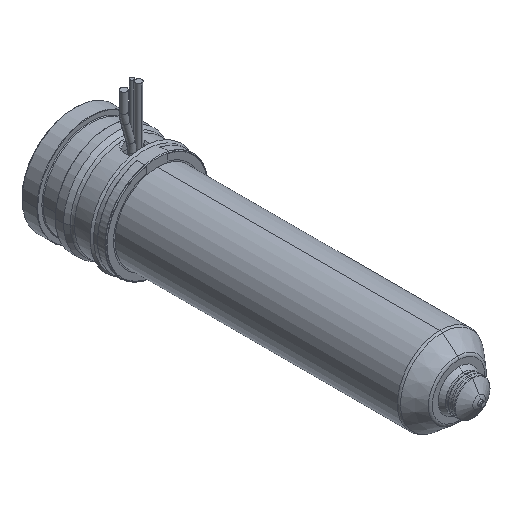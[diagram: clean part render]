
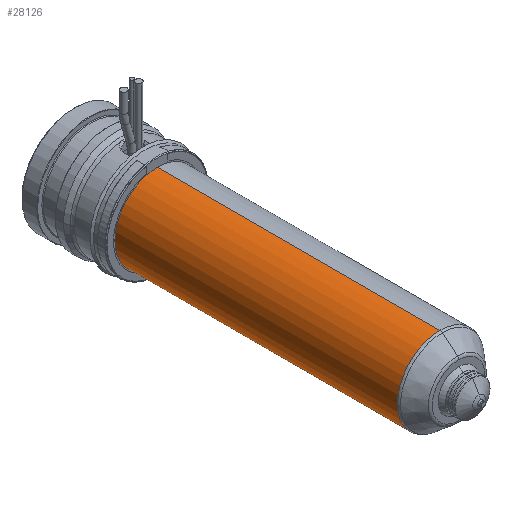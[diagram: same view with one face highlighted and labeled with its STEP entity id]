
A CAD part, isometric view. The second image highlights one B-rep face of the part: STEP entity #28126.
In plain terms, the highlighted cylindrical face has radius 12 mm (diameter 24 mm), a partial arc.
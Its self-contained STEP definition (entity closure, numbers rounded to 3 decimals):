
#27515=CARTESIAN_POINT('',(0.,-103.736,0.));
#27516=DIRECTION('',(0.,-1.,0.));
#27517=DIRECTION('',(0.,0.,1.));
#27518=AXIS2_PLACEMENT_3D('',#27515,#27516,#27517);
#27523=CARTESIAN_POINT('',(0.,-24.,0.));
#27524=DIRECTION('',(0.,1.,0.));
#27525=DIRECTION('',(0.,0.,-1.));
#27526=AXIS2_PLACEMENT_3D('',#27523,#27524,#27525);
#27531=DIRECTION('',(0.,1.,0.));
#27532=VECTOR('',#27531,79.736);
#27533=CARTESIAN_POINT('',(0.,-103.736,12.));
#27534=LINE('',#27533,#27532);
#27546=DIRECTION('',(0.,1.,0.));
#27547=VECTOR('',#27546,79.736);
#27548=CARTESIAN_POINT('',(0.,-103.736,-12.));
#27549=LINE('',#27548,#27547);
#27731=CARTESIAN_POINT('',(0.,-103.736,12.));
#27732=CARTESIAN_POINT('',(0.,-24.,12.));
#27733=VERTEX_POINT('',#27731);
#27734=VERTEX_POINT('',#27732);
#27735=CARTESIAN_POINT('',(0.,-103.736,-12.));
#27736=CARTESIAN_POINT('',(0.,-24.,-12.));
#27737=VERTEX_POINT('',#27735);
#27738=VERTEX_POINT('',#27736);
#28112=CARTESIAN_POINT('',(0.,-15.2,0.));
#28113=DIRECTION('',(0.,-1.,0.));
#28114=DIRECTION('',(0.,0.,1.));
#28115=AXIS2_PLACEMENT_3D('',#28112,#28113,#28114);
#28116=CYLINDRICAL_SURFACE('',#28115,12.);
#28118=ORIENTED_EDGE('',*,*,#28117,.F.);
#28119=ORIENTED_EDGE('',*,*,#28107,.T.);
#28121=ORIENTED_EDGE('',*,*,#28120,.T.);
#28123=ORIENTED_EDGE('',*,*,#28122,.T.);
#28124=EDGE_LOOP('',(#28118,#28119,#28121,#28123));
#28125=FACE_OUTER_BOUND('',#28124,.F.);
#28126=ADVANCED_FACE('',(#28125),#28116,.T.);
#27519=CIRCLE('',#27518,12.);
#27527=CIRCLE('',#27526,12.);
#28107=EDGE_CURVE('',#27733,#27737,#27519,.T.);
#28117=EDGE_CURVE('',#27733,#27734,#27534,.T.);
#28120=EDGE_CURVE('',#27737,#27738,#27549,.T.);
#28122=EDGE_CURVE('',#27738,#27734,#27527,.T.);
